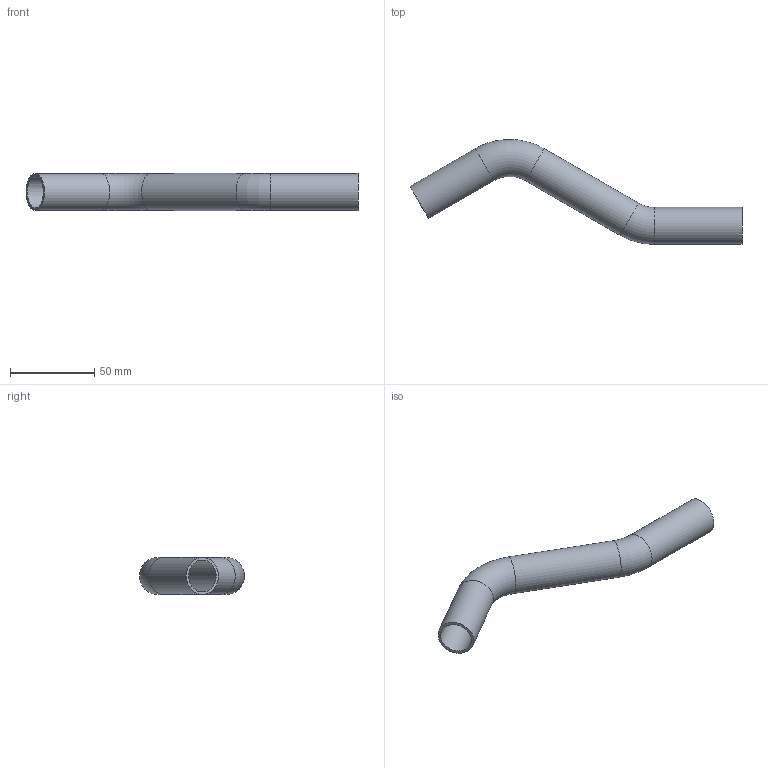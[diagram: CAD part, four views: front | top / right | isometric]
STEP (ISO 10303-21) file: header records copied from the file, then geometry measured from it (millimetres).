
FILE_DESCRIPTION((''),'2;1');
FILE_NAME('G:\Technics\CAD\Bauteile\022\6908722(0).stp','2008-02-21T08:43:27',('herberg'),(''),'Autodesk Inventor 2008','Autodesk Inventor 2008','');
FILE_SCHEMA(('AUTOMOTIVE_DESIGN { 1 0 10303 214 1 1 1 1 }'));
Length unit declared in the file: millimetre
Products named in the file (1): 6908722(0)
Bounding box: 197.19 x 62.34 x 22 mm (x, y, z)
Volume: 20139.3 mm3; surface area: 27045.6 mm2
Topology: 1 solids, 1 shells, 12 faces, 22 edges, 12 vertices
Faces by surface type: cylinder 6, torus 4, plane 2
Full cylindrical faces by diameter (mm): 19 x3, 22 x3
Entity records: 274 total; most frequent: DIRECTION 50, CARTESIAN_POINT 37, AXIS2_PLACEMENT_3D 25, ORIENTED_EDGE 24, EDGE_LOOP 24, VERTEX_POINT 12, CIRCLE 12, EDGE_CURVE 12
